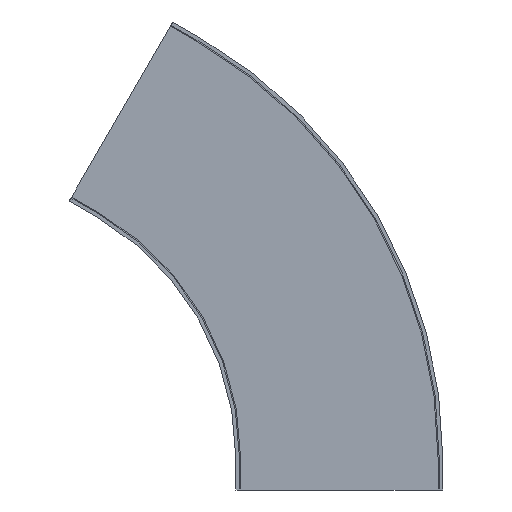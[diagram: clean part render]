
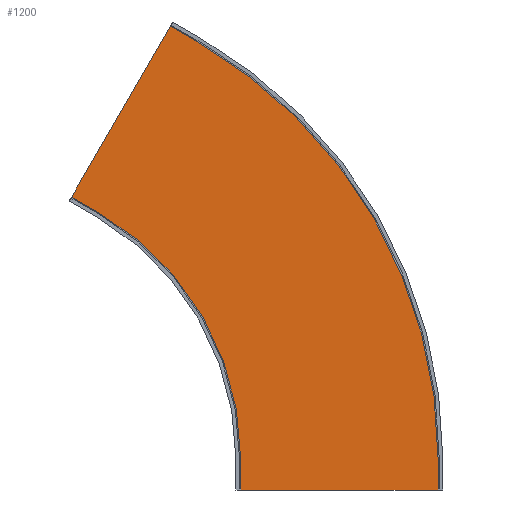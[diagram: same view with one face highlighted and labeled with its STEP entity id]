
A CAD part, front view. The second image highlights one B-rep face of the part: STEP entity #1200.
In plain terms, the highlighted planar face has unit normal (0, -1, 0).
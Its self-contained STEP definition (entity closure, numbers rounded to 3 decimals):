
#6 = ORIENTED_EDGE ( 'NONE', *, *, #1021, .F. ) ;
#42 = DIRECTION ( 'NONE',  ( 0., 0., 1. ) ) ;
#51 = PLANE ( 'NONE',  #2461 ) ;
#68 = DIRECTION ( 'NONE',  ( 0., 1., 0. ) ) ;
#80 = LINE ( 'NONE', #946, #734 ) ;
#122 = EDGE_CURVE ( 'NONE', #1896, #1960, #1551, .T. ) ;
#151 = VECTOR ( 'NONE', #330, 1000. ) ;
#259 = LINE ( 'NONE', #2290, #1154 ) ;
#305 = AXIS2_PLACEMENT_3D ( 'NONE', #2336, #68, #1064 ) ;
#319 = FACE_OUTER_BOUND ( 'NONE', #1608, .T. ) ;
#330 = DIRECTION ( 'NONE',  ( 0.5, 0., 0.866 ) ) ;
#387 = EDGE_CURVE ( 'NONE', #559, #1010, #1801, .T. ) ;
#419 = EDGE_CURVE ( 'NONE', #1708, #1356, #703, .T. ) ;
#439 = ORIENTED_EDGE ( 'NONE', *, *, #122, .F. ) ;
#451 = ORIENTED_EDGE ( 'NONE', *, *, #387, .F. ) ;
#461 = EDGE_CURVE ( 'NONE', #1755, #559, #259, .T. ) ;
#471 = CARTESIAN_POINT ( 'NONE',  ( 0., -68.25, -52.5 ) ) ;
#475 = ORIENTED_EDGE ( 'NONE', *, *, #419, .T. ) ;
#486 = CARTESIAN_POINT ( 'NONE',  ( 805.1, -68.25, -52.5 ) ) ;
#559 = VERTEX_POINT ( 'NONE', #1204 ) ;
#603 = LINE ( 'NONE', #921, #151 ) ;
#622 = DIRECTION ( 'NONE',  ( 0.866, 0., -0.5 ) ) ;
#627 = AXIS2_PLACEMENT_3D ( 'NONE', #1942, #2286, #2086 ) ;
#703 = CIRCLE ( 'NONE', #305, 474.9 ) ;
#712 = VERTEX_POINT ( 'NONE', #2206 ) ;
#717 = ORIENTED_EDGE ( 'NONE', *, *, #785, .F. ) ;
#734 = VECTOR ( 'NONE', #1344, 1000. ) ;
#776 = VECTOR ( 'NONE', #2384, 1000. ) ;
#785 = EDGE_CURVE ( 'NONE', #712, #1755, #603, .T. ) ;
#920 = VECTOR ( 'NONE', #622, 1000. ) ;
#921 = CARTESIAN_POINT ( 'NONE',  ( -45.466, -68.25, 26.25 ) ) ;
#946 = CARTESIAN_POINT ( 'NONE',  ( 805.1, -68.25, -52.5 ) ) ;
#961 = ORIENTED_EDGE ( 'NONE', *, *, #2055, .T. ) ;
#965 = CARTESIAN_POINT ( 'NONE',  ( 474.9, -68.25, -52.5 ) ) ;
#990 = CARTESIAN_POINT ( 'NONE',  ( 237.45, -68.25, 411.275 ) ) ;
#1010 = VERTEX_POINT ( 'NONE', #1393 ) ;
#1021 = EDGE_CURVE ( 'NONE', #1960, #1356, #1655, .T. ) ;
#1059 = CARTESIAN_POINT ( 'NONE',  ( 474.9, -68.25, -52.5 ) ) ;
#1064 = DIRECTION ( 'NONE',  ( -1., 0., 0. ) ) ;
#1154 = VECTOR ( 'NONE', #2296, 1000. ) ;
#1200 = ADVANCED_FACE ( 'NONE', ( #319 ), #51, .F. ) ;
#1204 = CARTESIAN_POINT ( 'NONE',  ( 402.55, -68.25, 697.237 ) ) ;
#1228 = DIRECTION ( 'NONE',  ( -1., 0., 0. ) ) ;
#1344 = DIRECTION ( 'NONE',  ( 0., 0., 1. ) ) ;
#1356 = VERTEX_POINT ( 'NONE', #1864 ) ;
#1364 = VECTOR ( 'NONE', #42, 1000. ) ;
#1393 = CARTESIAN_POINT ( 'NONE',  ( 805.1, -68.25, 0. ) ) ;
#1551 = LINE ( 'NONE', #471, #776 ) ;
#1608 = EDGE_LOOP ( 'NONE', ( #475, #6, #439, #961, #451, #2457, #717, #1936 ) ) ;
#1616 = DIRECTION ( 'NONE',  ( 0., 1., 0. ) ) ;
#1649 = CARTESIAN_POINT ( 'NONE',  ( 237.45, -68.25, 411.275 ) ) ;
#1655 = LINE ( 'NONE', #965, #1364 ) ;
#1658 = LINE ( 'NONE', #2374, #920 ) ;
#1708 = VERTEX_POINT ( 'NONE', #1649 ) ;
#1724 = EDGE_CURVE ( 'NONE', #712, #1708, #1658, .T. ) ;
#1755 = VERTEX_POINT ( 'NONE', #2015 ) ;
#1801 = CIRCLE ( 'NONE', #627, 805.1 ) ;
#1864 = CARTESIAN_POINT ( 'NONE',  ( 474.9, -68.25, 0. ) ) ;
#1896 = VERTEX_POINT ( 'NONE', #486 ) ;
#1936 = ORIENTED_EDGE ( 'NONE', *, *, #1724, .T. ) ;
#1942 = CARTESIAN_POINT ( 'NONE',  ( 0., -68.25, 0. ) ) ;
#1960 = VERTEX_POINT ( 'NONE', #1059 ) ;
#2015 = CARTESIAN_POINT ( 'NONE',  ( 357.084, -68.25, 723.487 ) ) ;
#2055 = EDGE_CURVE ( 'NONE', #1896, #1010, #80, .T. ) ;
#2086 = DIRECTION ( 'NONE',  ( -1., 0., 0. ) ) ;
#2206 = CARTESIAN_POINT ( 'NONE',  ( 191.984, -68.25, 437.525 ) ) ;
#2286 = DIRECTION ( 'NONE',  ( 0., 1., 0. ) ) ;
#2290 = CARTESIAN_POINT ( 'NONE',  ( 357.084, -68.25, 723.487 ) ) ;
#2296 = DIRECTION ( 'NONE',  ( 0.866, 0., -0.5 ) ) ;
#2336 = CARTESIAN_POINT ( 'NONE',  ( 0., -68.25, 0. ) ) ;
#2374 = CARTESIAN_POINT ( 'NONE',  ( 191.984, -68.25, 437.525 ) ) ;
#2384 = DIRECTION ( 'NONE',  ( -1., 0., 0. ) ) ;
#2457 = ORIENTED_EDGE ( 'NONE', *, *, #461, .F. ) ;
#2461 = AXIS2_PLACEMENT_3D ( 'NONE', #990, #1616, #1228 ) ;
